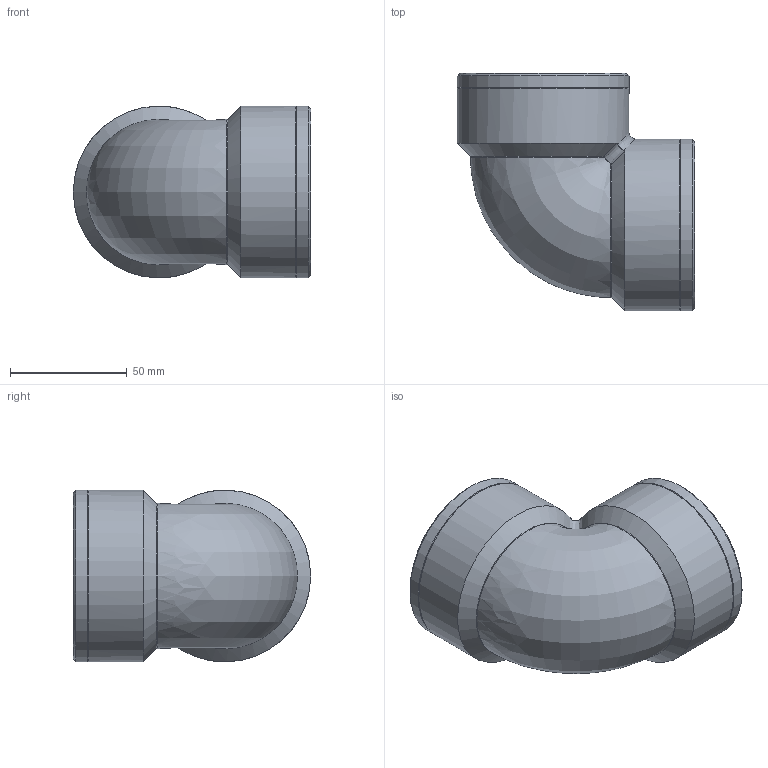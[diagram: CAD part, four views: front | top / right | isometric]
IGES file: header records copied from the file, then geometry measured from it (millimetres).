
Global section: file name: 050507020_0505070200A.ipt; native system: Autodesk Inventor 2015; preprocessor: unknown; author: KIM; date: 20170618.093219; units: millimetre
Bounding box: 101.83 x 101.83 x 73.65 mm (x, y, z)
Volume: 167320.4 mm3; surface area: 49583.8 mm2
Topology: 1 solids, 1 shells, 27 faces, 69 edges, 44 vertices
Faces by surface type: cone 8, revolution 8, cylinder 6, bspline 3, plane 2
Full cylindrical faces by diameter (mm): 73.653 x4
